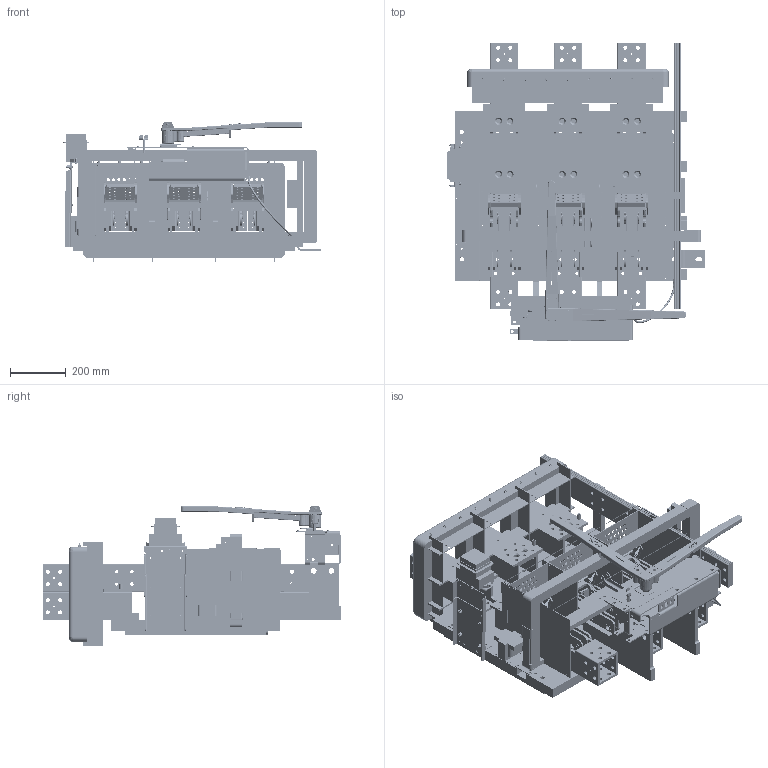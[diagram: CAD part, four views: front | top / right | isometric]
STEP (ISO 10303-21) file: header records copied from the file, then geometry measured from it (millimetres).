
FILE_DESCRIPTION(/* description */ (''),/* implementation_level */ '2;1');
FILE_NAME(/* name */ 'H:\switches\3d-templates\catalog-switches-iges-files\CATALOG-SLB3413AG60.stp',/* time_stamp */ '2022-03-18T15:33:59-05:00',/* author */ ('MKingston'),/* organization */ (''),/* preprocessor_version */ 'ST-DEVELOPER v18.1',/* originating_system */ 'Autodesk Inventor 2022',/* authorisation */ '');
FILE_SCHEMA (('AUTOMOTIVE_DESIGN { 1 0 10303 214 3 1 1 }'));
Products named in the file (77): CATALOG-SLB3413G6; 727-slb-g6; 701-b; 702-CN; 704; 708-arc-chute-assy; 50-ql; 50-qr; 709; CATALOG-4000-blade-assy; 705-b; 705-a; 705-c; 67-j; 69-gc3; 69-gd3; 67-fc3; 237; 672-a; 800-bck2; 800-fck-1; 246-f; 221-kpa; 452; 481-a; bf-gfr-1-mounting-assembly; 277-L1B; 277-l2; 277-l3; 277-l4; gfr-1; Bolted Connection; ANSI B18.6.3 - 10 - 32 x 3/4 SR HMS; ANSI B18.22.1 - No. 10 - Type A; ASME B18.21.1 - No. 10. Carbon Steel, ETLWTB(1); ANSI B18.2.2 - 10 - 32, HMSNI; Bolted Connection_1; ANSI B18.5 - 1/4-20 UNC - 0.75, RHBI; ASTM F436 - 1/4, CW; ASME B18.21.1 - 1/4. Carbon Steel, HITLWTB(1)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
Assembly tree (153 placements, depth 4):
  CATALOG-SLB3413G6
    727-slb-g6
    701-b  x3
    702-CN  x3
    704  x6
    708-arc-chute-assy  x3
      50-ql
      50-qr
      709
    CATALOG-4000-blade-assy  x3
      705-c
      705-b
      67-j
      705-a
      67-fc3
      69-gc3
      69-gd3
    237
    672-a  x2
    800-bck2
    800-fck-1
    246-f  x2
    221-kpa
    452
    481-a
    bf-gfr-1-mounting-assembly
      277-L1B
      277-l2
      277-l3
      277-l4
      gfr-1
      Bolted Connection
        ANSI B18.22.1 - No. 10 - Type A  x4
        ASME B18.21.1 - No. 10. Carbon Steel, ETLWTB(1)  x4
        ANSI B18.6.3 - 10 - 32 x 3/4 SR HMS  x2
        ANSI B18.2.2 - 10 - 32, HMSNI  x2
      Bolted Connection_1
        ANSI B18.5 - 1/4-20 UNC - 0.75, RHBI  x6
        ASTM F436 - 1/4, CW  x6
        ASME B18.21.1 - 1/4. Carbon Steel, HITLWTB(1)  x6
        ANSI B18.2.2 - 1/4 - 20, HNI  x6
    sl-slb-gfi-ring-assembly
      GFS10X30
      277-ma
    transformer
    230-a
    257-bb  x2
    257-ba  x2
    257-ca
    257-da
    672-E
    wire-connector  x2
    slb3413g6.Harness1
      slb3413g6.Harness1_1
    67-ZBA  x3
    223-d-transparent
    223-d-transparent-red
    223-FE
    703-B1  x3
    4000-SLB-allinone-NEUTRAL
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Bounding box: 926.24 x 1066.8 x 499.63 mm (x, y, z)
Volume: 52134256.8 mm3; surface area: 8795275.6 mm2
Topology: 198 solids, 200 shells, 6093 faces, 16192 edges, 10567 vertices
Faces by surface type: plane 3020, cylinder 2578, cone 193, bspline 180, torus 114, sphere 8
Full cylindrical faces by diameter (mm): 1.702 x8, 3.302 x14, 3.556 x9, 3.569 x2, 3.581 x2, 3.658 x8, 3.81 x9, 3.962 x11, 4.089 x4, 4.191 x9, 4.293 x9, 4.343 x84, 4.366 x2, 4.496 x36, 4.572 x21, 4.653 x4, 4.762 x4, 4.775 x8, 4.826 x2, 4.902 x16, 4.928 x16, 4.953 x4, 4.978 x42, 5.08 x2, 5.462 x4, 5.537 x5, 5.556 x3, 5.563 x10, 5.791 x12, 6.35 x32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
Entity records: 107374 total; most frequent: CARTESIAN_POINT 27533, DIRECTION 15894, ORIENTED_EDGE 15654, EDGE_CURVE 7838, AXIS2_PLACEMENT_3D 5589, VERTEX_POINT 5070, LINE 4716, VECTOR 4716
